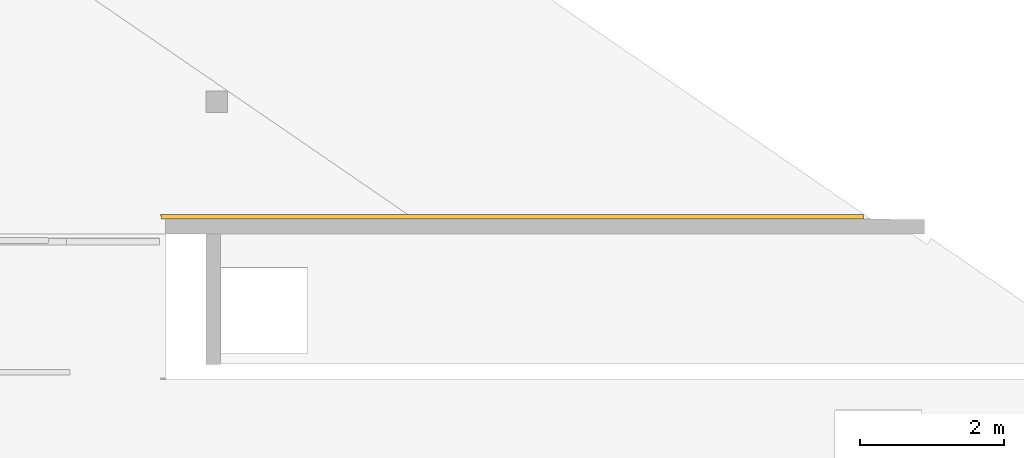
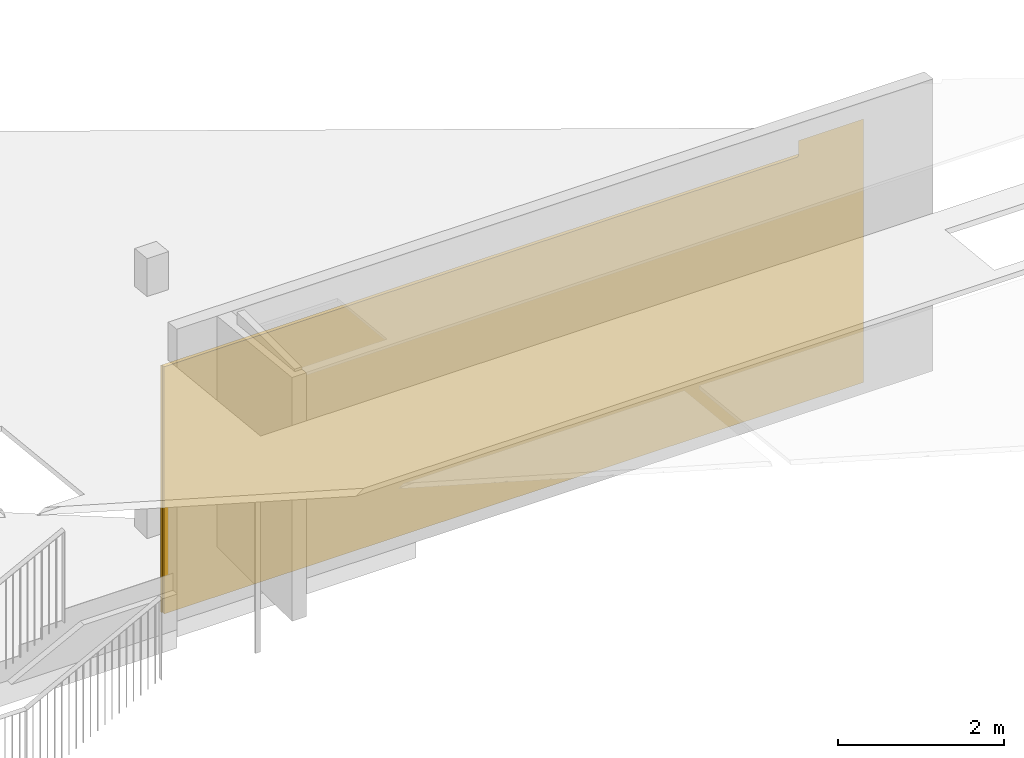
# One storey, part 41 of 43: 1 covering.
"""IFC2X3 building model written with IfcOpenShell, lengths in millimetres."""

from ifc_helpers import new_model, entity, si_unit, converted_unit, derived_unit, money_unit, direction, frame, origin_with_axes, place, context, subcontext, project, spatial, faceted_brep, material, material_list, type_object, element, save


model = new_model("IFC2X3")

# Units and contexts
model_context = context("Model", 3, precision=0.01, world=origin_with_axes(), true_north=direction((0.0, 1.0)))
body_context = subcontext(model_context, "Body", "Model", "MODEL_VIEW")
ifc_project = project(units=[si_unit("LENGTHUNIT", "METRE", prefix="MILLI"), si_unit("AREAUNIT", "SQUARE_METRE"), si_unit("VOLUMEUNIT", "CUBIC_METRE"), converted_unit("PLANEANGLEUNIT", "DEGREE", entity("IfcPlaneAngleMeasure", 0.0174532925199), si_unit("PLANEANGLEUNIT", "RADIAN"), dimensions=[0, 0, 0, 0, 0, 0, 0]), si_unit("SOLIDANGLEUNIT", "STERADIAN"), money_unit("EUR"), converted_unit("TIMEUNIT", "Year", entity("IfcTimeMeasure", 31556926.0), si_unit("TIMEUNIT", "SECOND"), dimensions=[0, 0, 1, 0, 0, 0, 0]), si_unit("MASSUNIT", "GRAM", prefix="KILO"), si_unit("THERMODYNAMICTEMPERATUREUNIT", "DEGREE_CELSIUS"), si_unit("LUMINOUSINTENSITYUNIT", "LUMEN"), si_unit("ENERGYUNIT", "JOULE", prefix="MEGA"), derived_unit("THERMALCONDUCTANCEUNIT", [(si_unit("POWERUNIT", "WATT"), 1), (si_unit("LENGTHUNIT", "METRE"), -1), (si_unit("THERMODYNAMICTEMPERATUREUNIT", "KELVIN"), -1)]), derived_unit("SPECIFICHEATCAPACITYUNIT", [(si_unit("ENERGYUNIT", "JOULE"), 1), (si_unit("MASSUNIT", "GRAM", prefix="KILO"), -1), (si_unit("THERMODYNAMICTEMPERATUREUNIT", "KELVIN"), -1)]), derived_unit("MASSDENSITYUNIT", [(si_unit("MASSUNIT", "GRAM", prefix="KILO"), 1), (si_unit("VOLUMEUNIT", "CUBIC_METRE"), -1)])], contexts=[model_context])

# Site, building, storey
site_placement = place(None, origin_with_axes())
site = spatial("IfcSite", under=ifc_project, at=site_placement, Name="L.Koidula tn 11b", CompositionType="ELEMENT")
building_placement = place(site_placement, origin_with_axes())
building = spatial("IfcBuilding", under=site, at=building_placement, Name="Rakvere Riigigümnaasium", CompositionType="ELEMENT")
storey_placement = place(building_placement, frame((0.0, 0.0, 6665.0), z_axis=(0.0, 0.0, 1.0), x_axis=(1.0, 0.0, 0.0)))
storey = spatial("IfcBuildingStorey", under=building, at=storey_placement, Name="3.korrus +6,66", CompositionType="ELEMENT", Elevation=6665.0)

# Covering
ifc_material_1 = material(Name="MDF")
ifc_material_2 = material(Name="Klaasvill")
ifc_material_list = material_list([ifc_material_1, ifc_material_2])
covering_type = type_object("IfcCoveringType", Name="SA - Akustiline sein 57", PredefinedType="CLADDING")
covering_placement = place(storey_placement, frame((75415.0821418, 17320.4555416, 0.0), z_axis=(0.0, 0.0, 1.0), x_axis=(1.0, 0.0, 0.0)))
element("IfcCovering", 1, at=covering_placement, inside=storey, type_object=covering_type, material=ifc_material_list, Name="S-03", PredefinedType="CLADDING", context=body_context, shape_type="Brep", body=[
    faceted_brep([(-57.0, 57.0, 3635.32756034), (9701.77823431, 57.0, 3635.17942642), (9701.77823431, 57.0, 0.0), (-57.0, 57.0, 0.0), (9701.77823431, 41.0, 3636.86109417), (-57.0, 41.0, 3637.00922809), (9701.77823431, 41.0, 0.0), (-57.0, 41.0, 0.0)], [[[0, 1, 2, 3]], [[4, 1, 0, 5]], [[1, 4, 6, 2]], [[3, 2, 6, 7]], [[5, 0, 3, 7]], [[4, 5, 7, 6]]]),
    faceted_brep([(-41.0, 41.0, 3637.00898522), (9701.77823431, 41.0, 3636.86109417), (9701.77823431, 41.0, 0.0), (-41.0, 41.0, 0.0), (9701.77823431, 0.0108651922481, 3641.16922579), (-41.0, 0.0, 3641.31825882), (8790.86092341, 0.0, 3641.18419509), (9701.77823431, 0.0108041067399, 3880.0), (9701.77823431, 0.0, 3880.0), (9701.77823431, 0.0, 0.0), (-41.0, 0.0, 0.0), (8794.90203327, 0.0, 3880.0), (8794.9020331, 4.82013398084e-05, 3653.75298707)], [[[0, 1, 2, 3]], [[4, 1, 0, 5, 6]], [[4, 7, 8, 9, 2, 1]], [[3, 2, 9, 10]], [[5, 0, 3, 10]], [[6, 5, 10, 9, 8, 11, 12]], [[4, 6, 12, 11, 7]], [[7, 11, 8]]]),
])

save(model, "model.ifc")
